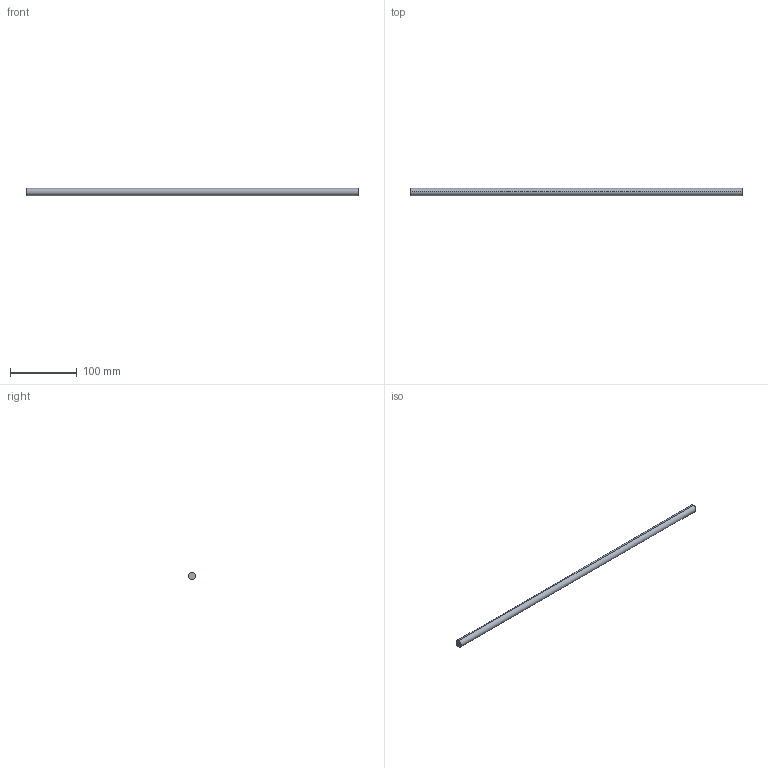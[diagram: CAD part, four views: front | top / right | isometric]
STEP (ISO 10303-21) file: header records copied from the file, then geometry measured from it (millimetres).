
FILE_DESCRIPTION (( 'STEP AP214' ), '1' );
FILE_NAME ('Querreling_2S-Rel_7102_KAB-600.step', '2010-09-22T15:05:54', ( 'grass' ), ( '' ), 'SwSTEP 2.0', 'SolidWorks 2010', '' );
FILE_SCHEMA (( 'AUTOMOTIVE_DESIGN' ));
Length unit declared in the file: millimetre
Products named in the file (1): Querreling_2S-Rel_7102_KAB-600
Bounding box: 499 x 11 x 11 mm (x, y, z)
Volume: 47421.6 mm3; surface area: 17434.3 mm2
Topology: 1 solids, 1 shells, 4 faces, 6 edges, 4 vertices
Faces by surface type: cylinder 2, plane 2
Entity records: 128 total; most frequent: DIRECTION 20, CARTESIAN_POINT 15, ORIENTED_EDGE 12, AXIS2_PLACEMENT_3D 9, EDGE_CURVE 6, EDGE_LOOP 4, FACE_OUTER_BOUND 4, CIRCLE 4
